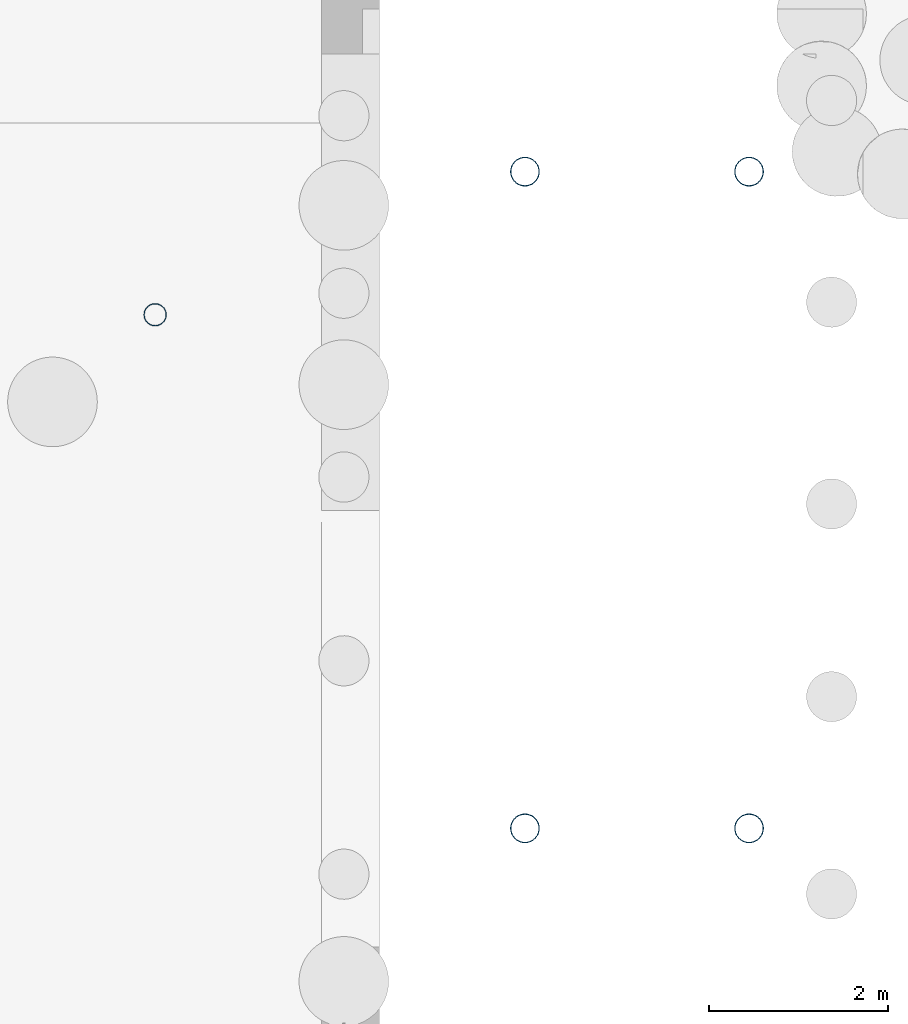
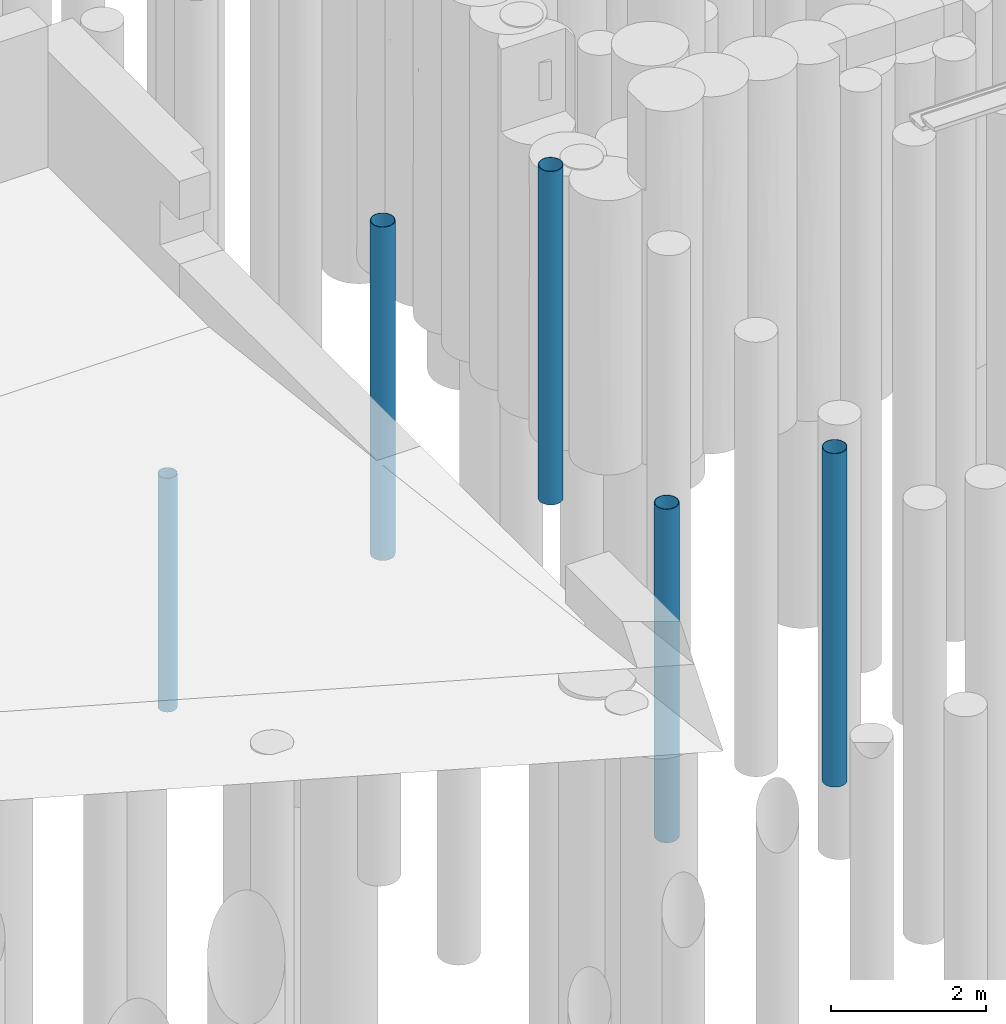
# One storey, part 8 of 104: 5 columns.
"""IFC2X3 building model written with IfcOpenShell, lengths in millimetres."""

from ifc_helpers import new_model, entity, si_unit, converted_unit, derived_unit, direction, frame, frame_2d, origin, place, context, subcontext, project, spatial, hollow_circle, extrude, source, transform, mapped, material, type_object, type_shapes, element, save


model = new_model("IFC2X3")

# Units and contexts
model_context = context("Model", 3, precision=0.01, world=origin(), true_north=direction((6.12303176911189e-17, 1.0)))
body_context = subcontext(model_context, "Body", "Model", "MODEL_VIEW")
ifc_project = project(units=[si_unit("LENGTHUNIT", "METRE", prefix="MILLI"), si_unit("AREAUNIT", "SQUARE_METRE", prefix="MILLI"), si_unit("VOLUMEUNIT", "CUBIC_METRE"), converted_unit("PLANEANGLEUNIT", "DEGREE", entity("IfcRatioMeasure", 0.0174532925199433), si_unit("PLANEANGLEUNIT", "RADIAN"), dimensions=[0, 0, 0, 0, 0, 0, 0]), si_unit("MASSUNIT", "GRAM", prefix="KILO"), derived_unit("MASSDENSITYUNIT", [(si_unit("MASSUNIT", "GRAM", prefix="KILO"), 1), (si_unit("LENGTHUNIT", "METRE"), -3)]), derived_unit("MOMENTOFINERTIAUNIT", [(si_unit("LENGTHUNIT", "METRE"), 4)]), si_unit("TIMEUNIT", "SECOND"), si_unit("FREQUENCYUNIT", "HERTZ"), si_unit("THERMODYNAMICTEMPERATUREUNIT", "DEGREE_CELSIUS"), derived_unit("THERMALTRANSMITTANCEUNIT", [(si_unit("MASSUNIT", "GRAM", prefix="KILO"), 1), (si_unit("THERMODYNAMICTEMPERATUREUNIT", "KELVIN"), -1), (si_unit("TIMEUNIT", "SECOND"), -3)]), derived_unit("VOLUMETRICFLOWRATEUNIT", [(si_unit("LENGTHUNIT", "METRE"), 3), (si_unit("TIMEUNIT", "SECOND"), -1)]), si_unit("ELECTRICCURRENTUNIT", "AMPERE"), si_unit("ELECTRICVOLTAGEUNIT", "VOLT"), si_unit("POWERUNIT", "WATT"), si_unit("FORCEUNIT", "NEWTON", prefix="KILO"), si_unit("ILLUMINANCEUNIT", "LUX"), si_unit("LUMINOUSFLUXUNIT", "LUMEN"), si_unit("LUMINOUSINTENSITYUNIT", "CANDELA"), derived_unit("USERDEFINED", [(si_unit("MASSUNIT", "GRAM", prefix="KILO"), -1), (si_unit("LENGTHUNIT", "METRE"), -2), (si_unit("TIMEUNIT", "SECOND"), 3), (si_unit("LUMINOUSFLUXUNIT", "LUMEN"), 1)]), derived_unit("LINEARVELOCITYUNIT", [(si_unit("LENGTHUNIT", "METRE"), 1), (si_unit("TIMEUNIT", "SECOND"), -1)]), si_unit("PRESSUREUNIT", "PASCAL"), derived_unit("USERDEFINED", [(si_unit("LENGTHUNIT", "METRE"), -2), (si_unit("MASSUNIT", "GRAM", prefix="KILO"), 1), (si_unit("TIMEUNIT", "SECOND"), -2)]), derived_unit("LINEARFORCEUNIT", [(si_unit("MASSUNIT", "GRAM", prefix="KILO"), 1), (si_unit("LENGTHUNIT", "METRE"), 1), (si_unit("TIMEUNIT", "SECOND"), -2), (si_unit("LENGTHUNIT", "METRE"), -1)]), derived_unit("PLANARFORCEUNIT", [(si_unit("MASSUNIT", "GRAM", prefix="KILO"), 1), (si_unit("LENGTHUNIT", "METRE"), 1), (si_unit("TIMEUNIT", "SECOND"), -2), (si_unit("LENGTHUNIT", "METRE"), -2)])], contexts=[model_context])

# Site, building, storey
site_placement = place(None, origin())
site = spatial("IfcSite", under=ifc_project, at=site_placement, Name="Theater aan de Parade", CompositionType="ELEMENT")
building_placement = place(site_placement, origin())
building = spatial("IfcBuilding", under=site, at=building_placement, Name="Theater aan de Parade", CompositionType="ELEMENT")
storey_placement = place(building_placement, frame((0.0, 0.0, -5520.0)))
storey = spatial("IfcBuildingStorey", under=building, at=storey_placement, Name="-2 kelder", CompositionType="ELEMENT", Elevation=-5520.0)

# Columns
ifc_material = material(Name="00_PBT_MAT_staal")
column_type_1 = type_object("IfcColumnType", Name="28_PBT_SC_staal_buis:B323.9x7.1_bestaand", PredefinedType="COLUMN", material=ifc_material)
shared_shape_1 = source(origin(), body_context, "Body", "SweptSolid", [
    extrude(hollow_circle(Radius=161.95, WallThickness=7.09999999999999, at=frame_2d((1.77837538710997e-15, -2.97621380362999e-13), x_axis=(1.0, 0.0))), frame((0.0, 0.0, -9590.0), z_axis=(0.0, 0.0, 1.0), x_axis=(-1.0, 0.0, 0.0)), (0.0, 0.0, 1.0), 5250.0),
])
type_shapes(column_type_1, [shared_shape_1])
for number, where, name in (
    (1, (33944.7864764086, 38506.0616831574, 5520.0), "28_PBT_SC_staal_buis:B323.9x7.1_bestaand"),
    (2, (31444.7864764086, 38506.0616831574, 5520.0), "28_PBT_SC_staal_buis:B323.9x7.1_bestaand"),
    (3, (31444.7864764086, 31181.4704211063, 5520.0), "28_PBT_SC_staal_buis:B323.9x7.1_bestaand"),
    (4, (33944.7864764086, 31181.4704211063, 5520.0), "28_PBT_SC_staal_buis:B323.9x7.1_bestaand"),
):
    element("IfcColumn", number, at=place(storey_placement, frame(where)), inside=storey, type_object=column_type_1, material=ifc_material, Name=name, ObjectType="28_PBT_SC_staal_buis:B323.9x7.1_bestaand", context=body_context, shape_type="MappedRepresentation", body=[
        mapped(shared_shape_1, transform((0.0, 0.0, 0.0), scale=1.0)),
    ])
column_type_2 = type_object("IfcColumnType", Name="28_PBT_SC_staal_buis:B250x dikte onbekend_bestaand", PredefinedType="COLUMN", material=ifc_material)
shared_shape_2 = source(origin(), body_context, "Body", "SweptSolid", [
    extrude(hollow_circle(Radius=125.0, WallThickness=4.99999999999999, at=frame_2d((1.77837538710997e-15, -1.74211308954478e-13), x_axis=(1.0, 0.0))), frame((0.0, 0.0, -9590.0), z_axis=(0.0, 0.0, 1.0), x_axis=(-1.0, 0.0, 0.0)), (0.0, 0.0, 1.0), 3680.0),
])
type_shapes(column_type_2, [shared_shape_2])
column_placement = place(storey_placement, frame((27320.0, 36910.0, 5520.0)))
element("IfcColumn", 5, at=column_placement, inside=storey, type_object=column_type_2, material=ifc_material, Name="28_PBT_SC_staal_buis:B250x dikte onbekend_bestaand", ObjectType="28_PBT_SC_staal_buis:B250x dikte onbekend_bestaand", context=body_context, shape_type="MappedRepresentation", body=[
    mapped(shared_shape_2, transform((0.0, 0.0, 0.0), scale=1.0)),
])

save(model, "model.ifc")
